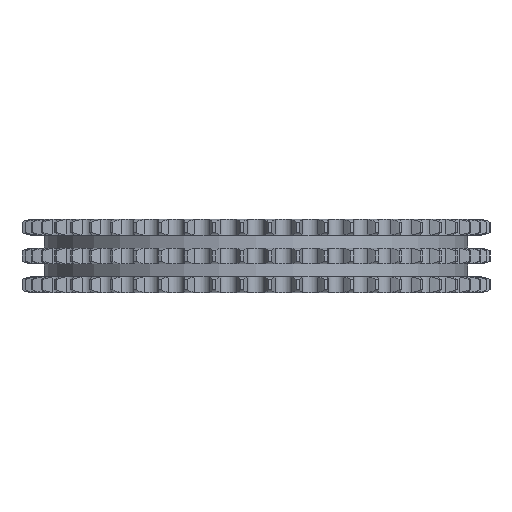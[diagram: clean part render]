
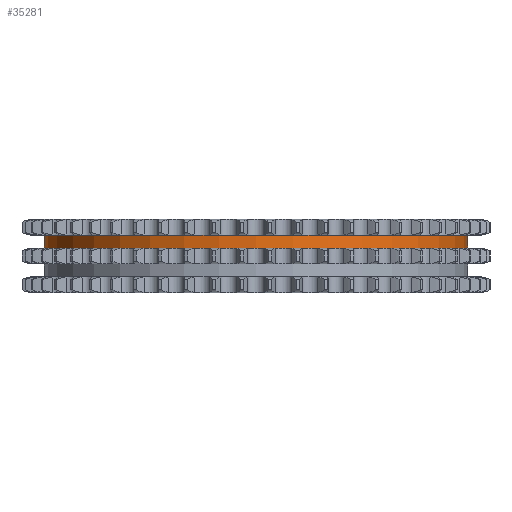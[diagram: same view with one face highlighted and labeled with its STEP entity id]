
A CAD part, left-side view. The second image highlights one B-rep face of the part: STEP entity #35281.
In plain terms, the highlighted cylindrical face has radius 121.462 mm (diameter 242.925 mm), a partial arc.
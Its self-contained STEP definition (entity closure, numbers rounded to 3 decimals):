
#6557=DIRECTION('',(0.,0.,-1.));
#6558=VECTOR('',#6557,7.4);
#6559=CARTESIAN_POINT('',(0.,121.462,11.95));
#6560=LINE('',#6559,#6558);
#6564=CARTESIAN_POINT('',(0.,0.,11.95));
#6565=DIRECTION('',(0.,0.,1.));
#6566=DIRECTION('',(0.,1.,0.));
#6567=AXIS2_PLACEMENT_3D('',#6564,#6565,#6566);
#6572=DIRECTION('',(0.,0.,-1.));
#6573=VECTOR('',#6572,7.4);
#6574=CARTESIAN_POINT('',(0.,-121.462,11.95));
#6575=LINE('',#6574,#6573);
#6579=CARTESIAN_POINT('',(0.,0.,4.55));
#6580=DIRECTION('',(0.,0.,1.));
#6581=DIRECTION('',(0.,1.,0.));
#6582=AXIS2_PLACEMENT_3D('',#6579,#6580,#6581);
#28550=CARTESIAN_POINT('',(0.,121.462,11.95));
#28551=CARTESIAN_POINT('',(0.,121.462,4.55));
#28552=VERTEX_POINT('',#28550);
#28553=VERTEX_POINT('',#28551);
#28554=CARTESIAN_POINT('',(0.,-121.462,11.95));
#28555=CARTESIAN_POINT('',(0.,-121.462,4.55));
#28556=VERTEX_POINT('',#28554);
#28557=VERTEX_POINT('',#28555);
#35269=CARTESIAN_POINT('',(0.,0.,13.145));
#35270=DIRECTION('',(0.,0.,-1.));
#35271=DIRECTION('',(0.,-1.,0.));
#35272=AXIS2_PLACEMENT_3D('',#35269,#35270,#35271);
#35273=CYLINDRICAL_SURFACE('',#35272,121.462);
#35274=ORIENTED_EDGE('',*,*,#35259,.F.);
#35275=ORIENTED_EDGE('',*,*,#35249,.T.);
#35276=ORIENTED_EDGE('',*,*,#35263,.T.);
#35278=ORIENTED_EDGE('',*,*,#35277,.F.);
#35279=EDGE_LOOP('',(#35274,#35275,#35276,#35278));
#35280=FACE_OUTER_BOUND('',#35279,.F.);
#35281=ADVANCED_FACE('',(#35280),#35273,.T.);
#6568=CIRCLE('',#6567,121.462);
#6583=CIRCLE('',#6582,121.462);
#35249=EDGE_CURVE('',#28552,#28556,#6568,.T.);
#35259=EDGE_CURVE('',#28552,#28553,#6560,.T.);
#35263=EDGE_CURVE('',#28556,#28557,#6575,.T.);
#35277=EDGE_CURVE('',#28553,#28557,#6583,.T.);
